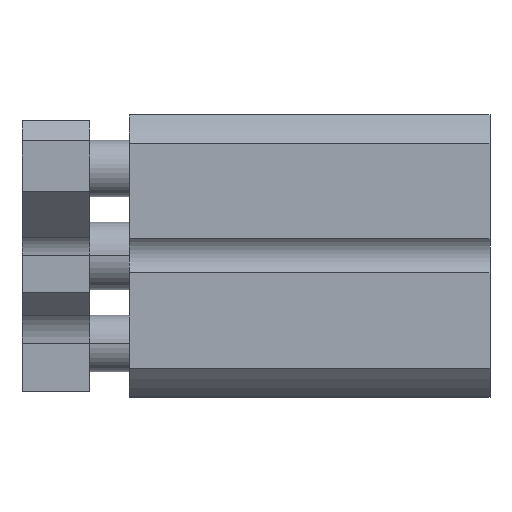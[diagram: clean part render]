
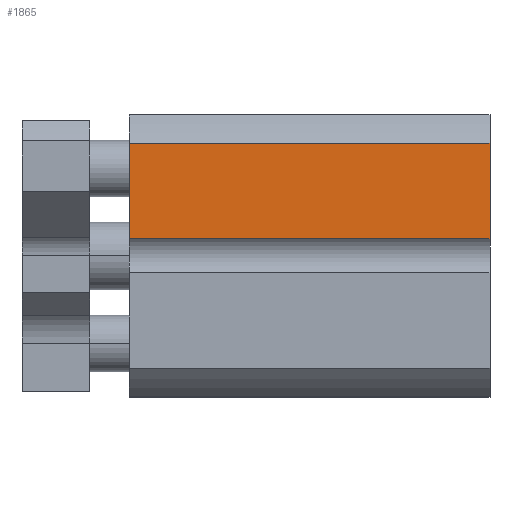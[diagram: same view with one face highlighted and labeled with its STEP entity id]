
A CAD part, top view. The second image highlights one B-rep face of the part: STEP entity #1865.
In plain terms, the highlighted planar face has unit normal (0, 0, 1).
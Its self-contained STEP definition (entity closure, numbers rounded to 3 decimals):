
#46 = ORIENTED_EDGE ( 'NONE', *, *, #1567, .F. ) ;
#226 = VECTOR ( 'NONE', #1930, 1000. ) ;
#333 = LINE ( 'NONE', #1459, #2172 ) ;
#489 = CARTESIAN_POINT ( 'NONE',  ( 32., 1.5, 12.5 ) ) ;
#522 = LINE ( 'NONE', #489, #2634 ) ;
#534 = ORIENTED_EDGE ( 'NONE', *, *, #1343, .F. ) ;
#613 = CARTESIAN_POINT ( 'NONE',  ( 0., 1.5, 12.5 ) ) ;
#684 = VERTEX_POINT ( 'NONE', #2220 ) ;
#718 = DIRECTION ( 'NONE',  ( 0., -1., 0. ) ) ;
#757 = CARTESIAN_POINT ( 'NONE',  ( 32., 9.987, 12.5 ) ) ;
#1197 = CARTESIAN_POINT ( 'NONE',  ( 32., 9.987, 12.5 ) ) ;
#1251 = EDGE_LOOP ( 'NONE', ( #3274, #534, #46, #1785 ) ) ;
#1343 = EDGE_CURVE ( 'NONE', #684, #3028, #522, .T. ) ;
#1384 = DIRECTION ( 'NONE',  ( 0., 0., -1. ) ) ;
#1459 = CARTESIAN_POINT ( 'NONE',  ( 32., 9.987, 12.5 ) ) ;
#1483 = EDGE_CURVE ( 'NONE', #3205, #3028, #3184, .T. ) ;
#1487 = AXIS2_PLACEMENT_3D ( 'NONE', #3574, #1384, #3542 ) ;
#1546 = VECTOR ( 'NONE', #718, 1000. ) ;
#1567 = EDGE_CURVE ( 'NONE', #1724, #684, #3485, .T. ) ;
#1724 = VERTEX_POINT ( 'NONE', #1197 ) ;
#1785 = ORIENTED_EDGE ( 'NONE', *, *, #2564, .T. ) ;
#1865 = ADVANCED_FACE ( 'NONE', ( #2515 ), #3740, .F. ) ;
#1930 = DIRECTION ( 'NONE',  ( 0., -1., 0. ) ) ;
#2172 = VECTOR ( 'NONE', #3354, 1000. ) ;
#2220 = CARTESIAN_POINT ( 'NONE',  ( 32., 1.5, 12.5 ) ) ;
#2331 = DIRECTION ( 'NONE',  ( -1., 0., 0. ) ) ;
#2515 = FACE_OUTER_BOUND ( 'NONE', #1251, .T. ) ;
#2564 = EDGE_CURVE ( 'NONE', #1724, #3205, #333, .T. ) ;
#2634 = VECTOR ( 'NONE', #2331, 1000. ) ;
#2954 = CARTESIAN_POINT ( 'NONE',  ( 0., 9.987, 12.5 ) ) ;
#3028 = VERTEX_POINT ( 'NONE', #613 ) ;
#3166 = CARTESIAN_POINT ( 'NONE',  ( 0., 9.987, 12.5 ) ) ;
#3184 = LINE ( 'NONE', #3166, #1546 ) ;
#3205 = VERTEX_POINT ( 'NONE', #2954 ) ;
#3274 = ORIENTED_EDGE ( 'NONE', *, *, #1483, .T. ) ;
#3354 = DIRECTION ( 'NONE',  ( -1., 0., 0. ) ) ;
#3485 = LINE ( 'NONE', #757, #226 ) ;
#3542 = DIRECTION ( 'NONE',  ( 0., -1., 0. ) ) ;
#3574 = CARTESIAN_POINT ( 'NONE',  ( 32., 9.987, 12.5 ) ) ;
#3740 = PLANE ( 'NONE',  #1487 ) ;
